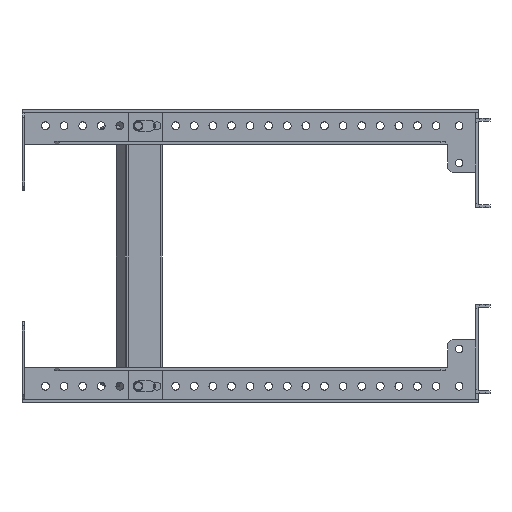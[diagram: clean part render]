
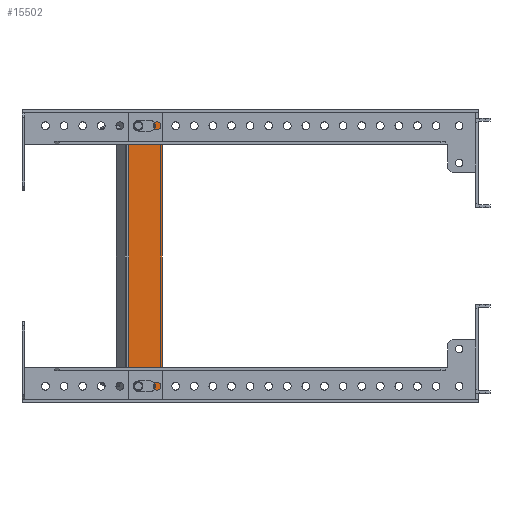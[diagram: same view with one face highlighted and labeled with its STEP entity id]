
A CAD part, front view. The second image highlights one B-rep face of the part: STEP entity #15502.
In plain terms, the highlighted planar face has unit normal (0, -1, 0).
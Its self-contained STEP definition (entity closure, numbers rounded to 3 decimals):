
#170 = VECTOR ( 'NONE', #14375, 1000. ) ;
#279 = DIRECTION ( 'NONE',  ( 0., -1., 0. ) ) ;
#445 = DIRECTION ( 'NONE',  ( 0., 1., 0. ) ) ;
#971 = VERTEX_POINT ( 'NONE', #25542 ) ;
#991 = DIRECTION ( 'NONE',  ( 0., 1., 0. ) ) ;
#1019 = VERTEX_POINT ( 'NONE', #11114 ) ;
#1086 = CIRCLE ( 'NONE', #9487, 3.5 ) ;
#1402 = EDGE_CURVE ( 'NONE', #9287, #19644, #21855, .T. ) ;
#1544 = CARTESIAN_POINT ( 'NONE',  ( 1128.272, -253.815, 97.5 ) ) ;
#1680 = CARTESIAN_POINT ( 'NONE',  ( 1120.27, -253.815, 87.5 ) ) ;
#2081 = ORIENTED_EDGE ( 'NONE', *, *, #19719, .F. ) ;
#2564 = EDGE_CURVE ( 'NONE', #24771, #11529, #18679, .T. ) ;
#2631 = CARTESIAN_POINT ( 'NONE',  ( 1120.27, -253.815, 91. ) ) ;
#2846 = CIRCLE ( 'NONE', #22805, 3.5 ) ;
#2945 = CIRCLE ( 'NONE', #13108, 3.5 ) ;
#3042 = AXIS2_PLACEMENT_3D ( 'NONE', #12232, #6254, #7943 ) ;
#3944 = DIRECTION ( 'NONE',  ( 1., 0., 0. ) ) ;
#3983 = ORIENTED_EDGE ( 'NONE', *, *, #6943, .T. ) ;
#4879 = VERTEX_POINT ( 'NONE', #13182 ) ;
#5132 = FACE_BOUND ( 'NONE', #15748, .T. ) ;
#5227 = LINE ( 'NONE', #10183, #10656 ) ;
#5488 = LINE ( 'NONE', #5638, #19814 ) ;
#5638 = CARTESIAN_POINT ( 'NONE',  ( 1128.272, -253.815, -100.859 ) ) ;
#5653 = CARTESIAN_POINT ( 'NONE',  ( 1112.27, -253.815, 84. ) ) ;
#5921 = CARTESIAN_POINT ( 'NONE',  ( 1120.27, -253.815, -91. ) ) ;
#5939 = EDGE_CURVE ( 'NONE', #1019, #8404, #2945, .T. ) ;
#6055 = ORIENTED_EDGE ( 'NONE', *, *, #2564, .T. ) ;
#6254 = DIRECTION ( 'NONE',  ( 0., 1., 0. ) ) ;
#6593 = VECTOR ( 'NONE', #25529, 1000. ) ;
#6844 = VECTOR ( 'NONE', #13078, 1000. ) ;
#6943 = EDGE_CURVE ( 'NONE', #8613, #7467, #5488, .T. ) ;
#7084 = FACE_BOUND ( 'NONE', #15636, .T. ) ;
#7282 = VERTEX_POINT ( 'NONE', #20278 ) ;
#7360 = PLANE ( 'NONE',  #10957 ) ;
#7396 = VECTOR ( 'NONE', #13742, 1000. ) ;
#7446 = DIRECTION ( 'NONE',  ( 0., 0., 1. ) ) ;
#7467 = VERTEX_POINT ( 'NONE', #1544 ) ;
#7492 = ORIENTED_EDGE ( 'NONE', *, *, #1402, .F. ) ;
#7677 = CARTESIAN_POINT ( 'NONE',  ( 1112.27, -253.815, 84. ) ) ;
#7943 = DIRECTION ( 'NONE',  ( -1., 0., 0. ) ) ;
#8301 = EDGE_CURVE ( 'NONE', #7282, #4879, #23011, .T. ) ;
#8328 = EDGE_CURVE ( 'NONE', #8745, #7282, #8588, .T. ) ;
#8336 = CIRCLE ( 'NONE', #18911, 3.5 ) ;
#8369 = EDGE_LOOP ( 'NONE', ( #10921, #7492, #16419, #3983 ) ) ;
#8404 = VERTEX_POINT ( 'NONE', #9967 ) ;
#8588 = LINE ( 'NONE', #17039, #6593 ) ;
#8613 = VERTEX_POINT ( 'NONE', #25742 ) ;
#8681 = DIRECTION ( 'NONE',  ( -1., 0., 0. ) ) ;
#8745 = VERTEX_POINT ( 'NONE', #11588 ) ;
#8885 = DIRECTION ( 'NONE',  ( -1., 0., 0. ) ) ;
#9096 = EDGE_CURVE ( 'NONE', #11529, #1019, #22991, .T. ) ;
#9155 = CARTESIAN_POINT ( 'NONE',  ( 1120.27, -253.815, 84. ) ) ;
#9287 = VERTEX_POINT ( 'NONE', #23869 ) ;
#9325 = ORIENTED_EDGE ( 'NONE', *, *, #8301, .F. ) ;
#9487 = AXIS2_PLACEMENT_3D ( 'NONE', #18007, #18278, #26636 ) ;
#9515 = DIRECTION ( 'NONE',  ( 0., 0., 1. ) ) ;
#9967 = CARTESIAN_POINT ( 'NONE',  ( 1112.27, -253.815, 91. ) ) ;
#10183 = CARTESIAN_POINT ( 'NONE',  ( 1105.77, -253.815, 97.5 ) ) ;
#10404 = ORIENTED_EDGE ( 'NONE', *, *, #5939, .T. ) ;
#10656 = VECTOR ( 'NONE', #3944, 1000. ) ;
#10802 = CARTESIAN_POINT ( 'NONE',  ( 1112.27, -253.815, -87.5 ) ) ;
#10921 = ORIENTED_EDGE ( 'NONE', *, *, #21716, .F. ) ;
#10957 = AXIS2_PLACEMENT_3D ( 'NONE', #24555, #991, #16070 ) ;
#10972 = CARTESIAN_POINT ( 'NONE',  ( 1112.27, -253.815, 87.5 ) ) ;
#11114 = CARTESIAN_POINT ( 'NONE',  ( 1108.77, -253.815, 87.5 ) ) ;
#11371 = ORIENTED_EDGE ( 'NONE', *, *, #11796, .F. ) ;
#11529 = VERTEX_POINT ( 'NONE', #7677 ) ;
#11588 = CARTESIAN_POINT ( 'NONE',  ( 1120.27, -253.815, -84. ) ) ;
#11796 = EDGE_CURVE ( 'NONE', #23745, #8745, #1086, .T. ) ;
#12232 = CARTESIAN_POINT ( 'NONE',  ( 1112.27, -253.815, 87.5 ) ) ;
#12755 = DIRECTION ( 'NONE',  ( 0., 1., 0. ) ) ;
#13078 = DIRECTION ( 'NONE',  ( 1., 0., 0. ) ) ;
#13108 = AXIS2_PLACEMENT_3D ( 'NONE', #10972, #445, #8885 ) ;
#13182 = CARTESIAN_POINT ( 'NONE',  ( 1108.77, -253.815, -87.5 ) ) ;
#13186 = LINE ( 'NONE', #21664, #7396 ) ;
#13742 = DIRECTION ( 'NONE',  ( 1., 0., 0. ) ) ;
#14375 = DIRECTION ( 'NONE',  ( -1., 0., 0. ) ) ;
#15074 = EDGE_CURVE ( 'NONE', #971, #23745, #23502, .T. ) ;
#15077 = ORIENTED_EDGE ( 'NONE', *, *, #9096, .T. ) ;
#15333 = CARTESIAN_POINT ( 'NONE',  ( 1150.113, -253.815, -97.5 ) ) ;
#15502 = ADVANCED_FACE ( 'NONE', ( #24148, #5132, #7084 ), #7360, .F. ) ;
#15559 = ORIENTED_EDGE ( 'NONE', *, *, #26054, .T. ) ;
#15636 = EDGE_LOOP ( 'NONE', ( #18836, #2081, #9325, #23757, #11371 ) ) ;
#15748 = EDGE_LOOP ( 'NONE', ( #15077, #10404, #17306, #15559, #6055 ) ) ;
#15807 = VECTOR ( 'NONE', #8681, 1000. ) ;
#16070 = DIRECTION ( 'NONE',  ( 1., 0., 0. ) ) ;
#16419 = ORIENTED_EDGE ( 'NONE', *, *, #18646, .F. ) ;
#16897 = DIRECTION ( 'NONE',  ( -1., 0., 0. ) ) ;
#17039 = CARTESIAN_POINT ( 'NONE',  ( 1112.27, -253.815, -84. ) ) ;
#17306 = ORIENTED_EDGE ( 'NONE', *, *, #18351, .T. ) ;
#17366 = CARTESIAN_POINT ( 'NONE',  ( 1112.27, -253.815, -91. ) ) ;
#17828 = CARTESIAN_POINT ( 'NONE',  ( 1105.77, -253.815, -97.5 ) ) ;
#18007 = CARTESIAN_POINT ( 'NONE',  ( 1120.27, -253.815, -87.5 ) ) ;
#18278 = DIRECTION ( 'NONE',  ( 0., -1., 0. ) ) ;
#18351 = EDGE_CURVE ( 'NONE', #8404, #22450, #13186, .T. ) ;
#18646 = EDGE_CURVE ( 'NONE', #8613, #9287, #23666, .T. ) ;
#18679 = LINE ( 'NONE', #5653, #170 ) ;
#18836 = ORIENTED_EDGE ( 'NONE', *, *, #15074, .F. ) ;
#18911 = AXIS2_PLACEMENT_3D ( 'NONE', #24978, #21734, #16897 ) ;
#19020 = AXIS2_PLACEMENT_3D ( 'NONE', #10802, #279, #23576 ) ;
#19644 = VERTEX_POINT ( 'NONE', #22222 ) ;
#19719 = EDGE_CURVE ( 'NONE', #4879, #971, #8336, .T. ) ;
#19814 = VECTOR ( 'NONE', #9515, 1000. ) ;
#20278 = CARTESIAN_POINT ( 'NONE',  ( 1112.27, -253.815, -84. ) ) ;
#21664 = CARTESIAN_POINT ( 'NONE',  ( 1112.27, -253.815, 91. ) ) ;
#21716 = EDGE_CURVE ( 'NONE', #19644, #7467, #5227, .T. ) ;
#21734 = DIRECTION ( 'NONE',  ( 0., -1., 0. ) ) ;
#21855 = LINE ( 'NONE', #17828, #25366 ) ;
#22222 = CARTESIAN_POINT ( 'NONE',  ( 1105.77, -253.815, 97.5 ) ) ;
#22450 = VERTEX_POINT ( 'NONE', #2631 ) ;
#22805 = AXIS2_PLACEMENT_3D ( 'NONE', #1680, #12755, #25255 ) ;
#22991 = CIRCLE ( 'NONE', #3042, 3.5 ) ;
#23011 = CIRCLE ( 'NONE', #19020, 3.5 ) ;
#23502 = LINE ( 'NONE', #17366, #6844 ) ;
#23576 = DIRECTION ( 'NONE',  ( -1., 0., 0. ) ) ;
#23666 = LINE ( 'NONE', #15333, #15807 ) ;
#23745 = VERTEX_POINT ( 'NONE', #5921 ) ;
#23757 = ORIENTED_EDGE ( 'NONE', *, *, #8328, .F. ) ;
#23869 = CARTESIAN_POINT ( 'NONE',  ( 1105.77, -253.815, -97.5 ) ) ;
#24148 = FACE_OUTER_BOUND ( 'NONE', #8369, .T. ) ;
#24555 = CARTESIAN_POINT ( 'NONE',  ( 1150.737, -253.815, 0. ) ) ;
#24771 = VERTEX_POINT ( 'NONE', #9155 ) ;
#24978 = CARTESIAN_POINT ( 'NONE',  ( 1112.27, -253.815, -87.5 ) ) ;
#25255 = DIRECTION ( 'NONE',  ( -1., 0., 0. ) ) ;
#25366 = VECTOR ( 'NONE', #7446, 1000. ) ;
#25529 = DIRECTION ( 'NONE',  ( -1., 0., 0. ) ) ;
#25542 = CARTESIAN_POINT ( 'NONE',  ( 1112.27, -253.815, -91. ) ) ;
#25742 = CARTESIAN_POINT ( 'NONE',  ( 1128.272, -253.815, -97.5 ) ) ;
#26054 = EDGE_CURVE ( 'NONE', #22450, #24771, #2846, .T. ) ;
#26636 = DIRECTION ( 'NONE',  ( -1., 0., 0. ) ) ;
